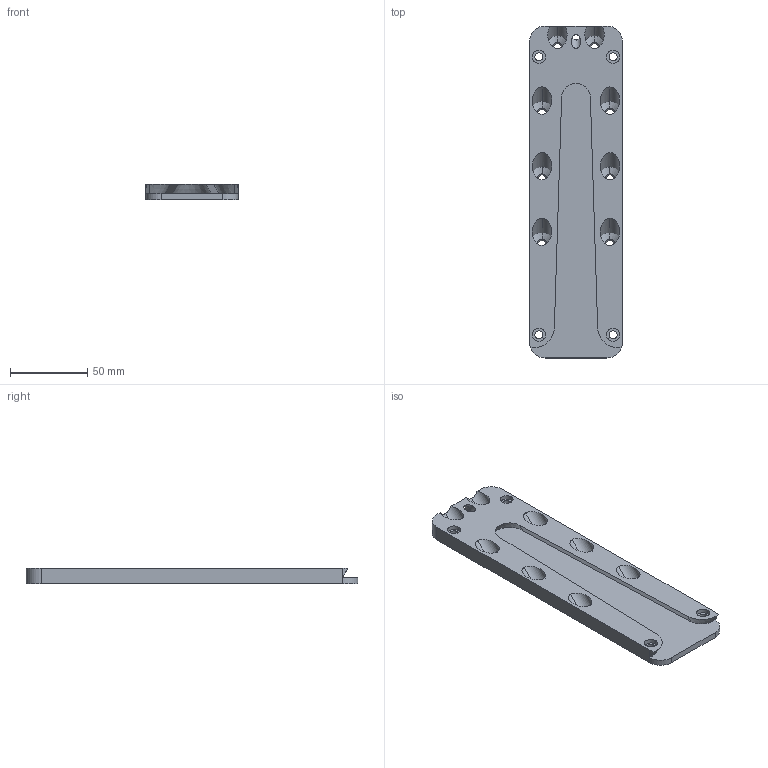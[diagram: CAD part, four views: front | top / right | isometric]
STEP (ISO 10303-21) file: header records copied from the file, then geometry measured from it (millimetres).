
FILE_DESCRIPTION (( 'STEP AP203' ), '1' );
FILE_NAME ('UV_80_NT_Holz.STEP', '2019-11-14T13:38:06', ( '' ), ( '' ), 'SwSTEP 2.0', 'SolidWorks 2013', '' );
FILE_SCHEMA (( 'CONFIG_CONTROL_DESIGN' ));
Length unit declared in the file: millimetre
Products named in the file (1): UV_80_NT_Holz
Bounding box: 60 x 215 x 10 mm (x, y, z)
Volume: 86185.8 mm3; surface area: 37199.3 mm2
Topology: 1 solids, 1 shells, 94 faces, 233 edges, 142 vertices
Faces by surface type: cylinder 58, cone 21, plane 15
Entity records: 2890 total; most frequent: CARTESIAN_POINT 602, ORIENTED_EDGE 466, DIRECTION 463, EDGE_CURVE 233, AXIS2_PLACEMENT_3D 179, VERTEX_POINT 142, EDGE_LOOP 121, VECTOR 105
